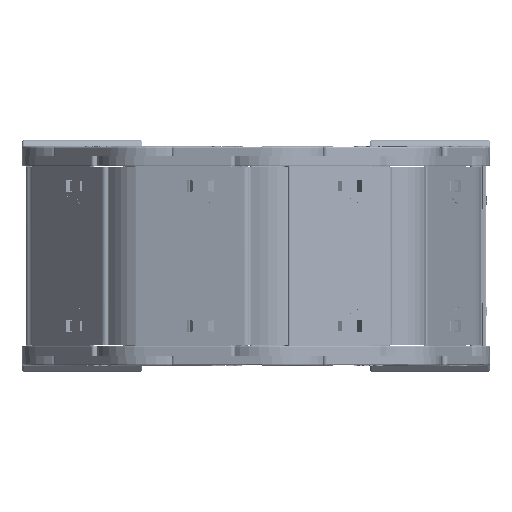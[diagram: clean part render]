
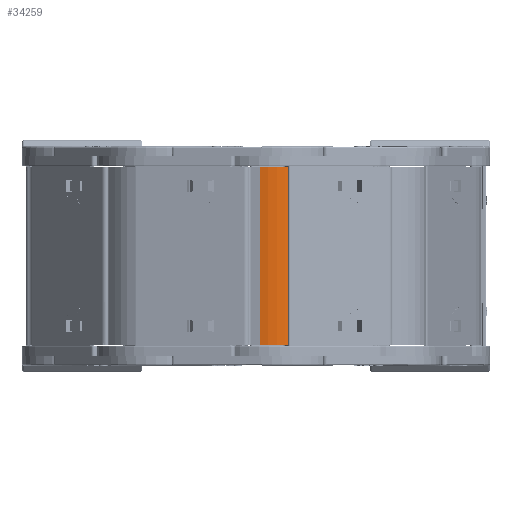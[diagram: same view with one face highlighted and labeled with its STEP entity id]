
A CAD part, left-side view. The second image highlights one B-rep face of the part: STEP entity #34259.
In plain terms, the highlighted cylindrical face has radius 29.2 mm (diameter 58.4 mm), a partial arc.
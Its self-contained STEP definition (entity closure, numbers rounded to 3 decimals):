
#2199 = CIRCLE ( 'NONE', #52384, 29.2 ) ;
#2250 = ORIENTED_EDGE ( 'NONE', *, *, #40626, .T. ) ;
#3493 = DIRECTION ( 'NONE',  ( 0., 0., 1. ) ) ;
#3975 = VERTEX_POINT ( 'NONE', #7197 ) ;
#4246 = DIRECTION ( 'NONE',  ( 0., 0., -1. ) ) ;
#7197 = CARTESIAN_POINT ( 'NONE',  ( 25.609, 2.303, -66.3 ) ) ;
#9297 = EDGE_CURVE ( 'NONE', #29438, #14019, #19558, .T. ) ;
#9592 = CARTESIAN_POINT ( 'NONE',  ( 25.609, 31.503, -66.3 ) ) ;
#9857 = CARTESIAN_POINT ( 'NONE',  ( 25.609, 31.503, -103.312 ) ) ;
#10615 = CARTESIAN_POINT ( 'NONE',  ( 43.645, 8.539, 32.8 ) ) ;
#13329 = DIRECTION ( 'NONE',  ( 0., 0., 1. ) ) ;
#14019 = VERTEX_POINT ( 'NONE', #21712 ) ;
#14134 = DIRECTION ( 'NONE',  ( 1., 0., 0. ) ) ;
#14318 = AXIS2_PLACEMENT_3D ( 'NONE', #9857, #41519, #14399 ) ;
#14399 = DIRECTION ( 'NONE',  ( 1., 0., 0. ) ) ;
#14824 = EDGE_LOOP ( 'NONE', ( #2250, #27782, #26756, #57727 ) ) ;
#19558 = CIRCLE ( 'NONE', #57701, 29.2 ) ;
#21712 = CARTESIAN_POINT ( 'NONE',  ( 25.609, 2.303, 32.8 ) ) ;
#22387 = CARTESIAN_POINT ( 'NONE',  ( 43.645, 8.539, -103.312 ) ) ;
#26756 = ORIENTED_EDGE ( 'NONE', *, *, #52392, .F. ) ;
#27782 = ORIENTED_EDGE ( 'NONE', *, *, #9297, .T. ) ;
#29438 = VERTEX_POINT ( 'NONE', #10615 ) ;
#31200 = CARTESIAN_POINT ( 'NONE',  ( 25.609, 31.503, 32.8 ) ) ;
#31279 = VECTOR ( 'NONE', #13329, 1000. ) ;
#33920 = CYLINDRICAL_SURFACE ( 'NONE', #14318, 29.2 ) ;
#34259 = ADVANCED_FACE ( 'NONE', ( #57933 ), #33920, .T. ) ;
#34801 = EDGE_CURVE ( 'NONE', #3975, #53001, #2199, .T. ) ;
#35702 = DIRECTION ( 'NONE',  ( 1., 0., 0. ) ) ;
#37484 = VECTOR ( 'NONE', #3493, 1000. ) ;
#38891 = LINE ( 'NONE', #39497, #37484 ) ;
#39497 = CARTESIAN_POINT ( 'NONE',  ( 25.609, 2.303, -103.312 ) ) ;
#40626 = EDGE_CURVE ( 'NONE', #53001, #29438, #44656, .T. ) ;
#41064 = DIRECTION ( 'NONE',  ( 0., 0., 1. ) ) ;
#41519 = DIRECTION ( 'NONE',  ( 0., 0., 1. ) ) ;
#44656 = LINE ( 'NONE', #22387, #31279 ) ;
#52384 = AXIS2_PLACEMENT_3D ( 'NONE', #9592, #41064, #14134 ) ;
#52392 = EDGE_CURVE ( 'NONE', #3975, #14019, #38891, .T. ) ;
#53001 = VERTEX_POINT ( 'NONE', #58181 ) ;
#57701 = AXIS2_PLACEMENT_3D ( 'NONE', #31200, #4246, #35702 ) ;
#57727 = ORIENTED_EDGE ( 'NONE', *, *, #34801, .T. ) ;
#57933 = FACE_OUTER_BOUND ( 'NONE', #14824, .T. ) ;
#58181 = CARTESIAN_POINT ( 'NONE',  ( 43.645, 8.539, -66.3 ) ) ;
